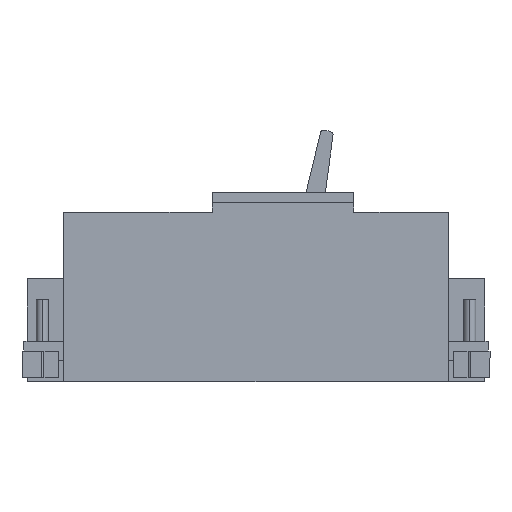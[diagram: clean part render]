
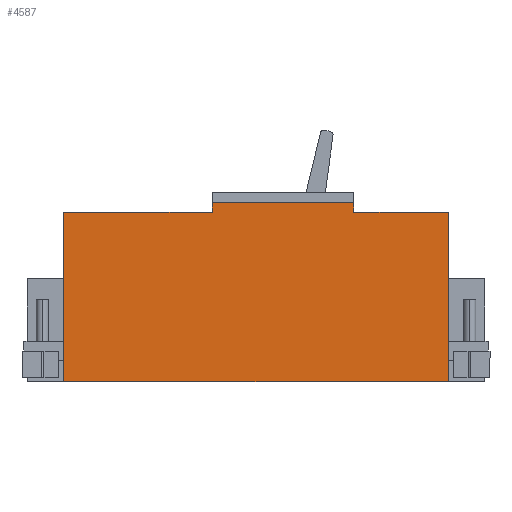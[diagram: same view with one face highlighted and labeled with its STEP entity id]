
A CAD part, left-side view. The second image highlights one B-rep face of the part: STEP entity #4587.
In plain terms, the highlighted planar face has unit normal (-1, 0, 0).
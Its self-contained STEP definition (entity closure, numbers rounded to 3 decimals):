
#56 = CARTESIAN_POINT ( 'NONE',  ( -105., -157.4, 154.6 ) ) ;
#119 = CARTESIAN_POINT ( 'NONE',  ( -105., -80.1, 154.6 ) ) ;
#150 = ORIENTED_EDGE ( 'NONE', *, *, #6578, .T. ) ;
#451 = FACE_OUTER_BOUND ( 'NONE', #5676, .T. ) ;
#685 = VECTOR ( 'NONE', #1237, 1000. ) ;
#715 = EDGE_CURVE ( 'NONE', #752, #5356, #2259, .T. ) ;
#736 = CARTESIAN_POINT ( 'NONE',  ( -105., 157.4, 0. ) ) ;
#752 = VERTEX_POINT ( 'NONE', #2403 ) ;
#930 = CARTESIAN_POINT ( 'NONE',  ( -105., 157.4, 154.6 ) ) ;
#1085 = LINE ( 'NONE', #930, #5189 ) ;
#1237 = DIRECTION ( 'NONE',  ( 0., 0., -1. ) ) ;
#1378 = ORIENTED_EDGE ( 'NONE', *, *, #3526, .T. ) ;
#1399 = LINE ( 'NONE', #2355, #1864 ) ;
#1425 = DIRECTION ( 'NONE',  ( 0., -1., 0. ) ) ;
#1475 = LINE ( 'NONE', #736, #7638 ) ;
#1584 = LINE ( 'NONE', #2771, #3543 ) ;
#1864 = VECTOR ( 'NONE', #6510, 1000. ) ;
#1865 = ORIENTED_EDGE ( 'NONE', *, *, #715, .F. ) ;
#1970 = DIRECTION ( 'NONE',  ( 0., 1., 0. ) ) ;
#2120 = EDGE_CURVE ( 'NONE', #7521, #5671, #1584, .T. ) ;
#2230 = EDGE_CURVE ( 'NONE', #6320, #752, #1399, .T. ) ;
#2259 = LINE ( 'NONE', #56, #685 ) ;
#2260 = VECTOR ( 'NONE', #4873, 1000. ) ;
#2353 = ORIENTED_EDGE ( 'NONE', *, *, #2230, .F. ) ;
#2355 = CARTESIAN_POINT ( 'NONE',  ( -105., -80.1, 138.6 ) ) ;
#2395 = EDGE_CURVE ( 'NONE', #5671, #6320, #5978, .T. ) ;
#2403 = CARTESIAN_POINT ( 'NONE',  ( -105., -157.4, 138.6 ) ) ;
#2517 = PLANE ( 'NONE',  #5283 ) ;
#2619 = VERTEX_POINT ( 'NONE', #2662 ) ;
#2662 = CARTESIAN_POINT ( 'NONE',  ( -105., 35.9, 138.6 ) ) ;
#2700 = DIRECTION ( 'NONE',  ( 0., 0., -1. ) ) ;
#2771 = CARTESIAN_POINT ( 'NONE',  ( -105., 35.9, 146.3 ) ) ;
#3144 = CARTESIAN_POINT ( 'NONE',  ( -105., 35.9, 138.6 ) ) ;
#3286 = VERTEX_POINT ( 'NONE', #4823 ) ;
#3526 = EDGE_CURVE ( 'NONE', #6067, #5356, #1475, .T. ) ;
#3543 = VECTOR ( 'NONE', #7640, 1000. ) ;
#3672 = CARTESIAN_POINT ( 'NONE',  ( -105., -80.1, 138.6 ) ) ;
#3795 = DIRECTION ( 'NONE',  ( 1., 0., 0. ) ) ;
#3865 = ORIENTED_EDGE ( 'NONE', *, *, #2395, .F. ) ;
#4192 = VECTOR ( 'NONE', #4813, 1000. ) ;
#4555 = ORIENTED_EDGE ( 'NONE', *, *, #7161, .F. ) ;
#4587 = ADVANCED_FACE ( 'NONE', ( #451 ), #2517, .F. ) ;
#4813 = DIRECTION ( 'NONE',  ( 0., 0., -1. ) ) ;
#4823 = CARTESIAN_POINT ( 'NONE',  ( -105., 157.4, 138.6 ) ) ;
#4873 = DIRECTION ( 'NONE',  ( 0., 0., 1. ) ) ;
#4892 = VECTOR ( 'NONE', #5789, 1000. ) ;
#5189 = VECTOR ( 'NONE', #2700, 1000. ) ;
#5223 = CARTESIAN_POINT ( 'NONE',  ( -105., 157.4, 0. ) ) ;
#5283 = AXIS2_PLACEMENT_3D ( 'NONE', #7374, #3795, #1970 ) ;
#5356 = VERTEX_POINT ( 'NONE', #6278 ) ;
#5447 = LINE ( 'NONE', #3144, #2260 ) ;
#5671 = VERTEX_POINT ( 'NONE', #5838 ) ;
#5676 = EDGE_LOOP ( 'NONE', ( #7263, #6922, #4555, #150, #1378, #1865, #2353, #3865 ) ) ;
#5789 = DIRECTION ( 'NONE',  ( 0., -1., 0. ) ) ;
#5838 = CARTESIAN_POINT ( 'NONE',  ( -105., -80.1, 146.3 ) ) ;
#5978 = LINE ( 'NONE', #119, #4192 ) ;
#6067 = VERTEX_POINT ( 'NONE', #5223 ) ;
#6198 = LINE ( 'NONE', #6310, #4892 ) ;
#6278 = CARTESIAN_POINT ( 'NONE',  ( -105., -157.4, 0. ) ) ;
#6310 = CARTESIAN_POINT ( 'NONE',  ( -105., 157.4, 138.6 ) ) ;
#6320 = VERTEX_POINT ( 'NONE', #3672 ) ;
#6510 = DIRECTION ( 'NONE',  ( 0., -1., 0. ) ) ;
#6578 = EDGE_CURVE ( 'NONE', #3286, #6067, #1085, .T. ) ;
#6922 = ORIENTED_EDGE ( 'NONE', *, *, #7676, .F. ) ;
#7161 = EDGE_CURVE ( 'NONE', #3286, #2619, #6198, .T. ) ;
#7263 = ORIENTED_EDGE ( 'NONE', *, *, #2120, .F. ) ;
#7374 = CARTESIAN_POINT ( 'NONE',  ( -105., 157.4, 154.6 ) ) ;
#7521 = VERTEX_POINT ( 'NONE', #7698 ) ;
#7638 = VECTOR ( 'NONE', #1425, 1000. ) ;
#7640 = DIRECTION ( 'NONE',  ( 0., -1., 0. ) ) ;
#7676 = EDGE_CURVE ( 'NONE', #2619, #7521, #5447, .T. ) ;
#7698 = CARTESIAN_POINT ( 'NONE',  ( -105., 35.9, 146.3 ) ) ;
